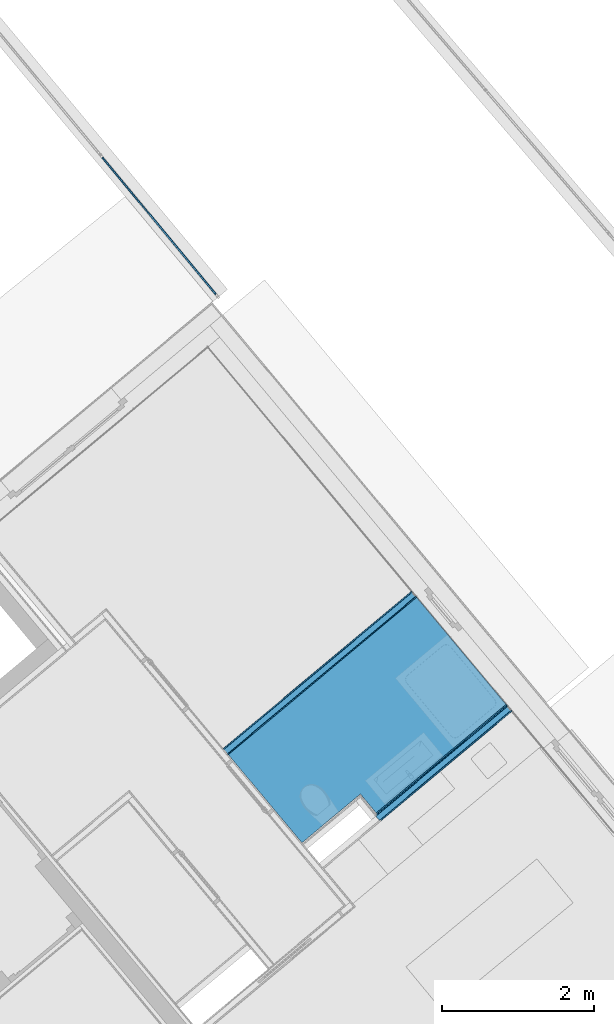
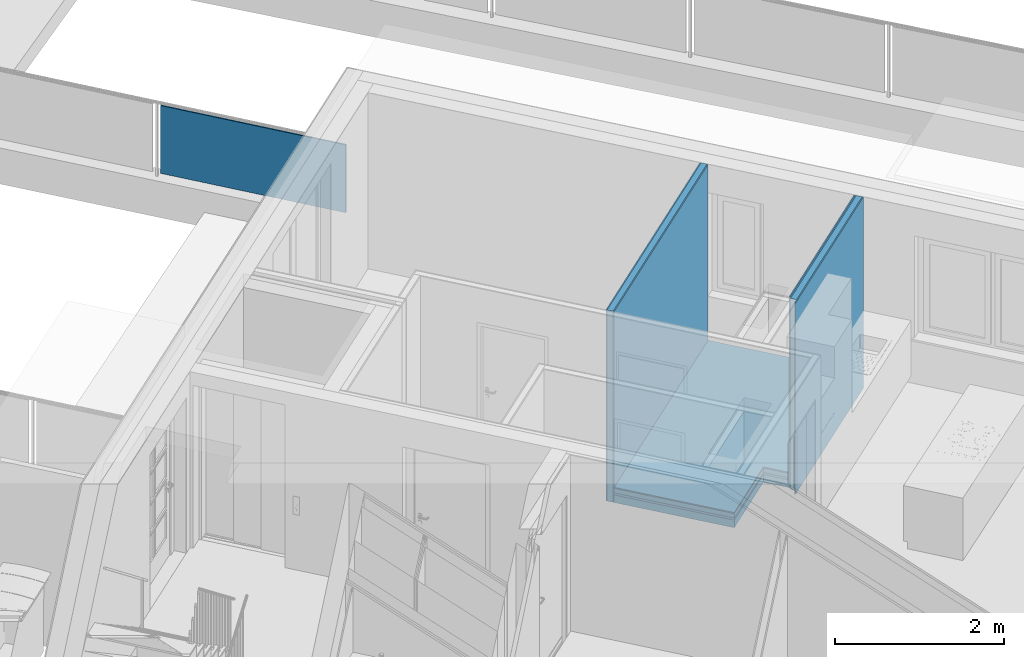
# One storey, part 43 of 75: 12 building element parts, 4 elements without a shape of their own.
"""IFC4 building model written with IfcOpenShell, lengths in metres."""

from ifc_helpers import new_model, entity, si_unit, converted_unit, derived_unit, direction, frame, origin_with_axes, place, context, subcontext, project, spatial, polygons, material, type_object, element, aggregate, save


model = new_model("IFC4")

# Units and contexts
model_context = context("Model", 3, precision=1e-05, world=origin_with_axes(), true_north=direction((0.0, 1.0)))
body_context = subcontext(model_context, "Body", "Model", "MODEL_VIEW")
ifc_project = project(units=[si_unit("LENGTHUNIT", "METRE"), si_unit("AREAUNIT", "SQUARE_METRE"), si_unit("VOLUMEUNIT", "CUBIC_METRE"), converted_unit("PLANEANGLEUNIT", "DEGREE", entity("IfcPlaneAngleMeasure", 0.0174532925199), si_unit("PLANEANGLEUNIT", "RADIAN"), dimensions=[0, 0, 0, 0, 0, 0, 0]), converted_unit("TIMEUNIT", "Year", entity("IfcTimeMeasure", 31556926.0), si_unit("TIMEUNIT", "SECOND"), dimensions=[0, 0, 1, 0, 0, 0, 0]), si_unit("MASSUNIT", "GRAM", prefix="KILO"), si_unit("THERMODYNAMICTEMPERATUREUNIT", "DEGREE_CELSIUS"), si_unit("LUMINOUSINTENSITYUNIT", "LUMEN"), si_unit("ENERGYUNIT", "JOULE", prefix="MEGA"), derived_unit("THERMALCONDUCTANCEUNIT", [(si_unit("POWERUNIT", "WATT"), 1), (si_unit("LENGTHUNIT", "METRE"), -1), (si_unit("THERMODYNAMICTEMPERATUREUNIT", "KELVIN"), -1)]), derived_unit("SPECIFICHEATCAPACITYUNIT", [(si_unit("ENERGYUNIT", "JOULE"), 1), (si_unit("MASSUNIT", "GRAM", prefix="KILO"), -1), (si_unit("THERMODYNAMICTEMPERATUREUNIT", "KELVIN"), -1)]), derived_unit("MASSDENSITYUNIT", [(si_unit("MASSUNIT", "GRAM", prefix="KILO"), 1), (si_unit("VOLUMEUNIT", "CUBIC_METRE"), -1)])], contexts=[model_context])

# Site, building, storey
site_placement = place(None, frame((-0.00153261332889, -0.00661245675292, 0.0), z_axis=(0.0, 0.0, 1.0), x_axis=(1.0, 0.0, 0.0)))
site = spatial("IfcSite", under=ifc_project, at=site_placement, Name="Gelände", CompositionType="ELEMENT")
building_placement = place(site_placement, origin_with_axes())
building = spatial("IfcBuilding", under=site, at=building_placement, Name="Gebäude", CompositionType="ELEMENT")
storey_placement = place(building_placement, frame((0.0, 0.0, -0.22), z_axis=(0.0, 0.0, 1.0), x_axis=(1.0, 0.0, 0.0)))
storey = spatial("IfcBuildingStorey", under=building, at=storey_placement, Name="EG", CompositionType="ELEMENT", Elevation=-0.22)

# Wall, building element parts
wall_type_1 = type_object("IfcWallType", Name="IW LB 01 Leichtbautrennwand einfach 10,5 cm 105", PredefinedType="NOTDEFINED")
wall_1_placement = place(storey_placement, frame((5.08746071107, 24.5291530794, 0.0), z_axis=(0.0, 0.0, 1.0), x_axis=(0.767365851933, 0.641209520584, 0.0)))
wall_1 = element("IfcWall", 1, at=wall_1_placement, inside=storey, type_object=wall_type_1, Name="Wand-012", PredefinedType="NOTDEFINED")
ifc_material_1 = material(Name="Gipskarton")
building_element_part_1_placement = place(wall_1_placement, origin_with_axes())
building_element_part_1 = element("IfcBuildingElementPart", 2, at=building_element_part_1_placement, material=ifc_material_1, Name="Gipskarton", PredefinedType="NOTDEFINED", context=body_context, shape_type="Tessellation", body=[
    polygons([(3.23167648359, 0.0, 2.76), (3.23167648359, -0.015, 2.76), (3.23167648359, -0.015, 0.0), (3.23167648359, 0.0, 0.0), (0.0, -0.015, 2.76), (0.0, 0.0, 2.76), (0.0, -0.015, 0.0), (0.0, 0.0, 0.0)], [[[1, 2, 3, 4]], [[5, 2, 1, 6]], [[2, 5, 7, 3]], [[8, 4, 3, 7]], [[6, 1, 4, 8]], [[5, 6, 8, 7]]], closed=True),
])
ifc_material_2 = material(Name="Mineralwolle weich")
building_element_part_2_placement = place(wall_1_placement, origin_with_axes())
building_element_part_2 = element("IfcBuildingElementPart", 3, at=building_element_part_2_placement, material=ifc_material_2, Name="Mineralwolle weich", PredefinedType="NOTDEFINED", context=body_context, shape_type="Tessellation", body=[
    polygons([(3.23167648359, -0.015, 2.76), (3.23167648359, -0.09, 2.76), (3.23167648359, -0.09, 0.0), (3.23167648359, -0.015, 0.0), (0.0, -0.09, 2.76), (0.0, -0.015, 2.76), (0.0, -0.09, 0.0), (0.0, -0.015, 0.0)], [[[1, 2, 3, 4]], [[5, 2, 1, 6]], [[2, 5, 7, 3]], [[8, 4, 3, 7]], [[6, 1, 4, 8]], [[5, 6, 8, 7]]], closed=True),
])
building_element_part_3_placement = place(wall_1_placement, origin_with_axes())
building_element_part_3 = element("IfcBuildingElementPart", 4, at=building_element_part_3_placement, material=ifc_material_1, Name="Gipskarton", PredefinedType="NOTDEFINED", context=body_context, shape_type="Tessellation", body=[
    polygons([(3.23167648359, -0.09, 0.0), (3.23167648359, -0.09, 2.76), (3.23167648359, -0.105, 2.76), (3.23167648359, -0.105, 0.0), (0.0, -0.09, 0.0), (0.0, -0.09, 2.76), (0.0, -0.105, 2.76), (0.0, -0.105, 0.0)], [[[1, 2, 3, 4]], [[5, 6, 2, 1]], [[6, 7, 3, 2]], [[4, 3, 7, 8]], [[8, 5, 1, 4]], [[8, 7, 6, 5]]], closed=True),
])
aggregate(wall_1, [building_element_part_1, building_element_part_2, building_element_part_3])

wall_type_2 = type_object("IfcWallType", Name="LB 13 cm doppelte Vorsatzschale Bad  120", PredefinedType="NOTDEFINED")
wall_2_placement = place(storey_placement, frame((7.01975244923, 23.6147528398, 0.0), z_axis=(0.0, 0.0, 1.0), x_axis=(0.767365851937, 0.641209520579, 0.0)))
wall_2 = element("IfcWall", 5, at=wall_2_placement, inside=storey, type_object=wall_type_2, Name="Wand-013", PredefinedType="NOTDEFINED")
building_element_part_4_placement = place(wall_2_placement, origin_with_axes())
building_element_part_4 = element("IfcBuildingElementPart", 6, at=building_element_part_4_placement, material=ifc_material_1, Name="Gipskarton", PredefinedType="NOTDEFINED", context=body_context, shape_type="Tessellation", body=[
    polygons([(2.33522392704, 0.0, 2.76), (2.33522392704, -0.015, 2.76), (2.33522392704, -0.015, 0.0), (2.33522392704, 0.0, 0.0), (0.104964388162, -0.015, 2.76), (0.105000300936, 0.0, 2.76), (0.104964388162, -0.015, 0.0), (0.105000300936, 0.0, 0.0)], [[[1, 2, 3, 4]], [[5, 2, 1, 6]], [[2, 5, 7, 3]], [[8, 4, 3, 7]], [[6, 1, 4, 8]], [[5, 6, 8, 7]]], closed=True),
])
building_element_part_5_placement = place(wall_2_placement, origin_with_axes())
building_element_part_5 = element("IfcBuildingElementPart", 7, at=building_element_part_5_placement, material=ifc_material_1, Name="Gipskarton", PredefinedType="NOTDEFINED", context=body_context, shape_type="Tessellation", body=[
    polygons([(2.33522392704, -0.015, 2.76), (2.33522392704, -0.03, 2.76), (2.33522392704, -0.03, 0.0), (2.33522392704, -0.015, 0.0), (0.0899284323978, -0.03, 2.76), (0.0899643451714, -0.015, 2.76), (0.0899284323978, -0.03, 0.0), (0.0899643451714, -0.015, 0.0)], [[[1, 2, 3, 4]], [[5, 2, 1, 6]], [[2, 5, 7, 3]], [[8, 4, 3, 7]], [[6, 1, 4, 8]], [[5, 6, 8, 7]]], closed=True),
])
building_element_part_6_placement = place(wall_2_placement, origin_with_axes())
building_element_part_6 = element("IfcBuildingElementPart", 8, at=building_element_part_6_placement, material=ifc_material_2, Name="Mineralwolle weich", PredefinedType="NOTDEFINED", context=body_context, shape_type="Tessellation", body=[
    polygons([(2.33522392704, -0.03, 2.76), (2.33522392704, -0.105, 2.76), (2.33522392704, -0.105, 0.0), (2.33522392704, -0.03, 0.0), (0.0747488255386, -0.105, 2.76), (0.0749283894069, -0.03, 2.76), (0.0747488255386, -0.105, 0.0), (0.0749283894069, -0.03, 0.0)], [[[1, 2, 3, 4]], [[5, 2, 1, 6]], [[2, 5, 7, 3]], [[8, 4, 3, 7]], [[6, 1, 4, 8]], [[5, 6, 8, 7]]], closed=True),
])
ifc_material_3 = material(Name="Gipsputz")
building_element_part_7_placement = place(wall_2_placement, origin_with_axes())
building_element_part_7 = element("IfcBuildingElementPart", 9, at=building_element_part_7_placement, material=ifc_material_3, Name="Gipsputz", PredefinedType="NOTDEFINED", context=body_context, shape_type="Tessellation", body=[
    polygons([(2.33522392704, -0.105, 2.76), (2.33522392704, -0.12, 2.76), (2.33522392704, -0.12, 0.0), (2.33522392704, -0.105, 0.0), (-0.00028730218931, -0.12, 2.76), (-0.000251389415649, -0.105, 2.76), (-0.00028730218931, -0.12, 0.0), (-0.000251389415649, -0.105, 0.0)], [[[1, 2, 3, 4]], [[5, 2, 1, 6]], [[2, 5, 7, 3]], [[8, 4, 3, 7]], [[6, 1, 4, 8]], [[5, 6, 8, 7]]], closed=True),
])
aggregate(wall_2, [building_element_part_4, building_element_part_5, building_element_part_6, building_element_part_7])

# Covering, building element parts
covering_type = type_object("IfcCoveringType", Name="DE 01 Decke Wohnung/Wohnung Fließen 220", PredefinedType="NOTDEFINED")
covering_placement = place(storey_placement, frame((5.15478771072, 24.448579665, 0.22), z_axis=(0.0, 0.0, 1.0), x_axis=(1.0, 0.0, 0.0)))
covering = element("IfcCovering", 10, at=covering_placement, inside=storey, type_object=covering_type, Name="Decke-001", PredefinedType="NOTDEFINED")
ifc_material_4 = material(Name="Fliesen")
building_element_part_8_placement = place(covering_placement, origin_with_axes())
building_element_part_8 = element("IfcBuildingElementPart", 11, at=building_element_part_8_placement, material=ifc_material_4, Name="Fliesen", PredefinedType="NOTDEFINED", context=body_context, shape_type="Tessellation", body=[
    polygons([(0.969800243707, -1.16060595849, 0.0), (0.969800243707, -1.16060595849, -0.015), (1.71585376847, -0.537204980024, -0.015), (1.71585376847, -0.537204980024, 0.0), (0.0, 0.0, 0.0), (0.0, 0.0, -0.015), (2.47987817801, 2.07218172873, -0.015), (3.65693583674, 0.66354098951, -0.015), (1.94553838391, -0.766499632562, -0.015), (1.75805597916, -0.54103567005, -0.015), (1.75811086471, -0.540989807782, -0.015), (1.73903554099, -0.518161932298, -0.015), (1.71596857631, -0.537343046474, -0.015), (1.71596857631, -0.537343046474, 0.0), (1.73903554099, -0.518161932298, 0.0), (1.75811086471, -0.540989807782, 0.0), (1.75805597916, -0.54103567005, 0.0), (1.94553838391, -0.766499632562, 0.0), (3.65693583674, 0.66354098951, 0.0), (2.47987817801, 2.07218172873, 0.0)], [[[1, 2, 3, 4]], [[2, 1, 5, 6]], [[3, 2, 6, 7, 8, 9, 10, 11, 12, 13]], [[13, 14, 4, 3]], [[1, 4, 14, 15, 16, 17, 18, 19, 20, 5]], [[6, 5, 20, 7]], [[19, 8, 7, 20]], [[18, 9, 8, 19]], [[9, 18, 17, 10]], [[10, 17, 16, 11]], [[16, 15, 12, 11]], [[14, 13, 12, 15]]], closed=True),
])
ifc_material_5 = material(Name="Estrich")
building_element_part_9_placement = place(covering_placement, origin_with_axes())
building_element_part_9 = element("IfcBuildingElementPart", 12, at=building_element_part_9_placement, material=ifc_material_5, Name="Estrich", PredefinedType="NOTDEFINED", context=body_context, shape_type="Tessellation", body=[
    polygons([(0.969800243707, -1.16060595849, -0.015), (0.969800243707, -1.16060595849, -0.08), (1.71585376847, -0.537204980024, -0.08), (1.71585376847, -0.537204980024, -0.015), (0.0, 0.0, -0.015), (0.0, 0.0, -0.08), (2.47987817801, 2.07218172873, -0.08), (3.65693583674, 0.66354098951, -0.08), (1.94553838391, -0.766499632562, -0.08), (1.75805597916, -0.54103567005, -0.08), (1.75811086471, -0.540989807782, -0.08), (1.73903554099, -0.518161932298, -0.08), (1.71596857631, -0.537343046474, -0.08), (1.71596857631, -0.537343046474, -0.015), (1.73903554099, -0.518161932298, -0.015), (1.75811086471, -0.540989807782, -0.015), (1.75805597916, -0.54103567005, -0.015), (1.94553838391, -0.766499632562, -0.015), (3.65693583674, 0.66354098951, -0.015), (2.47987817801, 2.07218172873, -0.015)], [[[1, 2, 3, 4]], [[2, 1, 5, 6]], [[3, 2, 6, 7, 8, 9, 10, 11, 12, 13]], [[13, 14, 4, 3]], [[1, 4, 14, 15, 16, 17, 18, 19, 20, 5]], [[6, 5, 20, 7]], [[19, 8, 7, 20]], [[18, 9, 8, 19]], [[9, 18, 17, 10]], [[10, 17, 16, 11]], [[16, 15, 12, 11]], [[14, 13, 12, 15]]], closed=True),
])
ifc_material_6 = material(Name="Trittschalldämmung")
building_element_part_10_placement = place(covering_placement, origin_with_axes())
building_element_part_10 = element("IfcBuildingElementPart", 13, at=building_element_part_10_placement, material=ifc_material_6, Name="Trittschalldämmung", PredefinedType="NOTDEFINED", context=body_context, shape_type="Tessellation", body=[
    polygons([(0.969800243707, -1.16060595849, -0.08), (0.969800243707, -1.16060595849, -0.11), (1.71585376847, -0.537204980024, -0.11), (1.71585376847, -0.537204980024, -0.08), (0.0, 0.0, -0.08), (0.0, 0.0, -0.11), (2.47987817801, 2.07218172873, -0.11), (3.65693583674, 0.66354098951, -0.11), (1.94553838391, -0.766499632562, -0.11), (1.75805597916, -0.54103567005, -0.11), (1.75811086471, -0.540989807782, -0.11), (1.73903554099, -0.518161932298, -0.11), (1.71596857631, -0.537343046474, -0.11), (1.71596857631, -0.537343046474, -0.08), (1.73903554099, -0.518161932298, -0.08), (1.75811086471, -0.540989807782, -0.08), (1.75805597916, -0.54103567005, -0.08), (1.94553838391, -0.766499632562, -0.08), (3.65693583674, 0.66354098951, -0.08), (2.47987817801, 2.07218172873, -0.08)], [[[1, 2, 3, 4]], [[2, 1, 5, 6]], [[3, 2, 6, 7, 8, 9, 10, 11, 12, 13]], [[13, 14, 4, 3]], [[1, 4, 14, 15, 16, 17, 18, 19, 20, 5]], [[6, 5, 20, 7]], [[19, 8, 7, 20]], [[18, 9, 8, 19]], [[9, 18, 17, 10]], [[10, 17, 16, 11]], [[16, 15, 12, 11]], [[14, 13, 12, 15]]], closed=True),
])
ifc_material_7 = material(Name="Schüttung")
building_element_part_11_placement = place(covering_placement, origin_with_axes())
building_element_part_11 = element("IfcBuildingElementPart", 14, at=building_element_part_11_placement, material=ifc_material_7, Name="Schüttung", PredefinedType="NOTDEFINED", context=body_context, shape_type="Tessellation", body=[
    polygons([(0.969800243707, -1.16060595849, -0.11), (0.969800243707, -1.16060595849, -0.22), (1.71585376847, -0.537204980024, -0.22), (1.71585376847, -0.537204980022, -0.11), (0.0, 0.0, -0.11), (0.0, 0.0, -0.22), (2.47987817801, 2.07218172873, -0.22), (3.65693583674, 0.66354098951, -0.22), (1.94553838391, -0.766499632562, -0.22), (1.75805597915, -0.541035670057, -0.22), (1.75811086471, -0.540989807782, -0.22), (1.73903554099, -0.518161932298, -0.22), (1.71596857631, -0.537343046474, -0.22), (1.71596857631, -0.537343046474, -0.11), (1.73903554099, -0.518161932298, -0.11), (1.75811086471, -0.540989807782, -0.11), (1.75805597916, -0.54103567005, -0.11), (1.94553838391, -0.766499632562, -0.11), (3.65693583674, 0.66354098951, -0.11), (2.47987817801, 2.07218172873, -0.11)], [[[1, 2, 3, 4]], [[2, 1, 5, 6]], [[3, 2, 6, 7, 8, 9, 10, 11, 12, 13]], [[13, 14, 4, 3]], [[1, 4, 14, 15, 16, 17, 18, 19, 20, 5]], [[6, 5, 20, 7]], [[8, 7, 20, 19]], [[18, 9, 8, 19]], [[9, 18, 17, 10]], [[10, 17, 16, 11]], [[12, 11, 16, 15]], [[14, 13, 12, 15]]], closed=True),
])
aggregate(covering, [building_element_part_8, building_element_part_9, building_element_part_10, building_element_part_11])

# Railing, building element part
railing_type = type_object("IfcRailingType", Name="Geländerart", PredefinedType="NOTDEFINED")
railing_placement = place(storey_placement, frame((0.180685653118, 26.4249004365, 0.523948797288), z_axis=(0.0, 0.0, 1.0), x_axis=(1.0, 0.0, 0.0)))
railing = element("IfcRailing", 15, at=railing_placement, inside=storey, type_object=railing_type, Name="Geländer - 001", PredefinedType="NOTDEFINED")
ifc_material_8 = material(Name="Zaun")
building_element_part_12_placement = place(railing_placement, origin_with_axes())
building_element_part_12 = element("IfcBuildingElementPart", 16, at=building_element_part_12_placement, material=ifc_material_8, Name="Zaun", PredefinedType="NOTDEFINED", context=body_context, shape_type="Tessellation", body=[
    polygons([(4.81716922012, 4.09069898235, 0.05), (3.32672649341, 5.88957122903, 0.05), (3.32672649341, 5.88957122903, 1.03), (4.81716922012, 4.09069898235, 1.03), (3.31132584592, 5.87681113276, 0.05), (4.80176857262, 4.07793888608, 0.05), (3.31132584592, 5.87681113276, 1.03), (4.80176857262, 4.07793888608, 1.03)], [[[1, 2, 3, 4]], [[5, 2, 1, 6]], [[7, 3, 2, 5]], [[4, 3, 7, 8]], [[1, 4, 8, 6]], [[7, 5, 6, 8]]], closed=True),
])
aggregate(railing, [building_element_part_12])

save(model, "model.ifc")
